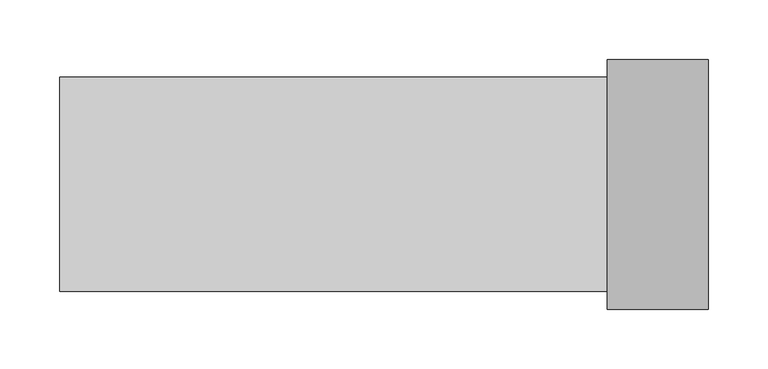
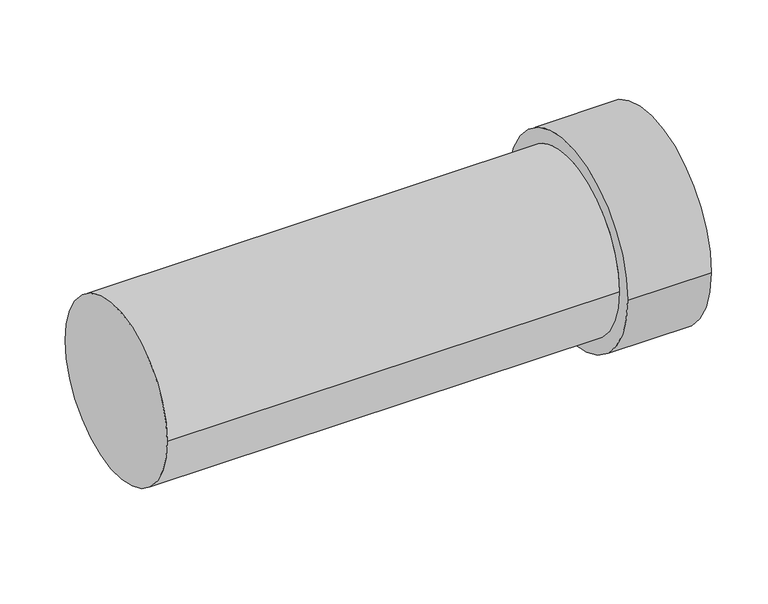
"""IFC4 building model written with IfcOpenShell, lengths in millimetres: duct segment geometry, NLRS_57_DUF_UN_duct EPP_M&G : ø125 - ø180."""

from ifc_helpers import new_model, si_unit, frame, origin, place, context, project, spatial, polyline, circle_curve, source, transform, mapped, element, save
from ifc_brep_helpers import plane_surface, cylinder_surface, revolved_surface, advanced_brep


def duct_segment_1deb6c9c(model_context):
    return source(origin(), model_context, "Body", "AdvancedBrep", [
        advanced_brep(
        [(505.0, -90.0, 0.0), (505.0, 90.0, 0.0), (0.0, 90.0, 0.0), (0.0, -90.0, 0.0), (460.0, -90.0, 0.0), (460.0, 90.0, 0.0), (460.0, -105.0, 0.0), (460.0, 105.0, 0.0), (545.0, -105.0, 0.0), (545.0, 105.0, 0.0), (545.0, -90.0, 0.0), (545.0, 90.0, 0.0)],
        [
            (0, 1, circle_curve(frame((505.0, 0.0, 0.0), z_axis=(1.0, 0.0, 0.0), x_axis=(0.0, 1.0, 0.0)), 90.0)),
            (1, 0, circle_curve(frame((505.0, 0.0, 0.0), z_axis=(1.0, 0.0, 0.0), x_axis=(0.0, 1.0, 0.0)), 90.0)),
            (2, 3, circle_curve(frame((0.0, 0.0, 0.0), z_axis=(-1.0, 0.0, 0.0), x_axis=(0.0, -1.0, 0.0)), 90.0)),
            (3, 2, circle_curve(frame((0.0, 0.0, 0.0), z_axis=(-1.0, 0.0, 0.0), x_axis=(0.0, -1.0, 0.0)), 90.0)),
            (3, 4),
            (4, 5, circle_curve(frame((460.0, 0.0, 0.0), z_axis=(-1.0, 0.0, 0.0), x_axis=(0.0, -1.0, 0.0)), 90.0)),
            (5, 2),
            (5, 4, circle_curve(frame((460.0, 0.0, 0.0), z_axis=(-1.0, 0.0, 0.0), x_axis=(0.0, -1.0, 0.0)), 90.0)),
            (6, 7, circle_curve(frame((460.0, 0.0, 0.0), z_axis=(-1.0, 0.0, 0.0), x_axis=(0.0, 1.0, 0.0)), 105.0)),
            (7, 6, circle_curve(frame((460.0, 0.0, 0.0), z_axis=(-1.0, 0.0, 0.0), x_axis=(0.0, 1.0, 0.0)), 105.0)),
            (8, 9, circle_curve(frame((545.0, 0.0, 0.0), z_axis=(1.0, 0.0, 0.0), x_axis=(0.0, 1.0, 0.0)), 105.0)),
            (9, 8, circle_curve(frame((545.0, 0.0, 0.0), z_axis=(1.0, 0.0, 0.0), x_axis=(0.0, 1.0, 0.0)), 105.0)),
            (10, 11, circle_curve(frame((545.0, 0.0, 0.0), z_axis=(-1.0, 0.0, 0.0), x_axis=(0.0, 1.0, 0.0)), 90.0)),
            (11, 10, circle_curve(frame((545.0, 0.0, 0.0), z_axis=(-1.0, 0.0, 0.0), x_axis=(0.0, 1.0, 0.0)), 90.0)),
            (11, 1),
            (0, 10),
            (6, 8),
            (9, 7),
        ],
        [
            plane_surface(frame((505.0, 0.0, 0.0), z_axis=(1.0, 0.0, 0.0), x_axis=(0.0, 0.0, 1.0))),
            plane_surface(frame((0.0, 0.0, 0.0), z_axis=(-1.0, 0.0, 0.0), x_axis=(0.0, 0.0, 1.0))),
            cylinder_surface(frame((505.0, 0.0, 0.0), z_axis=(1.0, 0.0, 0.0), x_axis=(0.0, -1.0, 0.0)), 90.0),
            plane_surface(frame((460.0, 0.0, 0.0), z_axis=(-1.0, 0.0, 0.0), x_axis=(0.0, 0.0, 1.0))),
            plane_surface(frame((545.0, 0.0, 0.0), z_axis=(1.0, 0.0, 0.0), x_axis=(0.0, 0.0, 1.0))),
            revolved_surface(polyline([(545.0, 90.0, 0.0), (505.0, 90.0, 0.0)]), (460.0, 0.0, 0.0), (1.0, 0.0, 0.0)),
            cylinder_surface(frame((460.0, 0.0, 0.0), z_axis=(-1.0, 0.0, 0.0), x_axis=(0.0, 1.0, 0.0)), 105.0),
        ],
        [
            (0, [[1, 2]]),
            (1, [[3, 4]]),
            (2, [[-4, 5, 6, 7]]),
            (2, [[-3, -7, 8, -5]]),
            (3, [[9, 10], [-6, -8]]),
            (4, [[11, 12], [13, 14]]),
            (5, [[-14, 15, -1, 16]]),
            (5, [[-13, -16, -2, -15]]),
            (6, [[-9, 17, -12, 18]]),
            (6, [[-10, -18, -11, -17]]),
        ],
    ),
    ])


if __name__ == "__main__":
    model = new_model("IFC4")
    model_context = context("Model", 3, world=origin())
    ifc_project = project(units=[si_unit("LENGTHUNIT", "METRE", prefix="MILLI")], contexts=[model_context])
    site = spatial("IfcSite", under=ifc_project)
    building = spatial("IfcBuilding", under=site)
    placement = place(None, origin())
    duct_segment_shape = duct_segment_1deb6c9c(model_context)
    element("IfcDuctSegment", 1, ObjectType="NLRS_57_DUF_UN_duct EPP_M&G : ø125 - ø180", at=placement, inside=building, context=model_context, shape_type="MappedRepresentation", body=[
        mapped(duct_segment_shape, transform((0.0, 0.0, 0.0), x_axis=(1.0, 0.0, 0.0), y_axis=(0.0, 1.0, 0.0), z_axis=(0.0, 0.0, 1.0))),
    ])
    save(model, "model.ifc")
